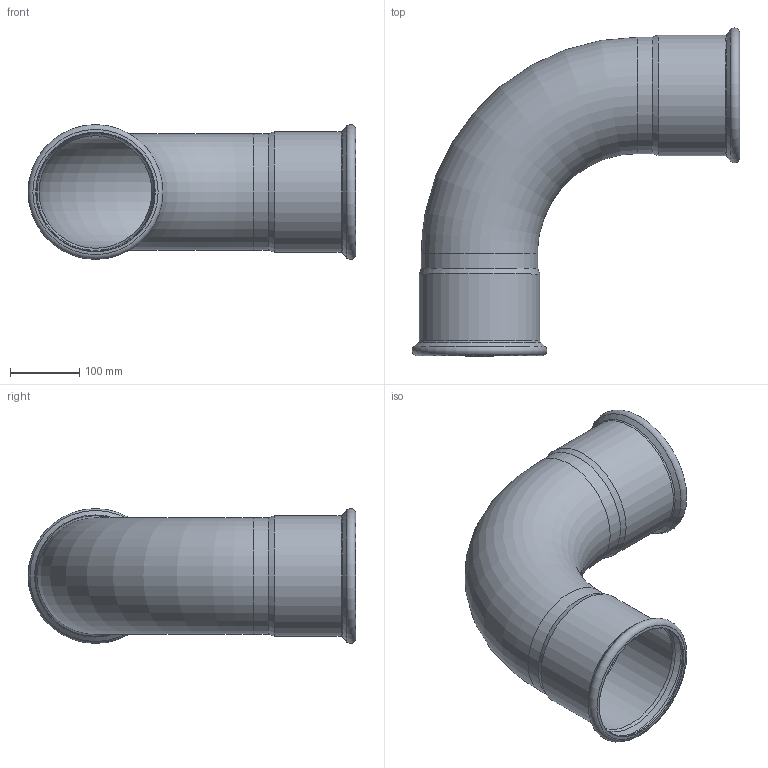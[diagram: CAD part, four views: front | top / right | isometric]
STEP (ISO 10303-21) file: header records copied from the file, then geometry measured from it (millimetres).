
FILE_DESCRIPTION((''),'2;1');
FILE_NAME('G:\Nirosan-Schmiedefeld\Technics\CAD\001 Serie 9.000\169_va\69002A168H(0).stp','2020-10-06T08:00:36',('herberg'),(''),'Autodesk Inventor 2009','Autodesk Inventor 2009','');
FILE_SCHEMA(('AUTOMOTIVE_DESIGN { 1 0 10303 214 1 1 1 1 }'));
Length unit declared in the file: millimetre
Products named in the file (3): 69002A168H(0); 69002A168P(0); 69HM168P(0)
Assembly tree (3 placements, depth 2):
  69002A168H(0)
    69002A168P(0)
    69HM168P(0)  x2
Bounding box: 474.59 x 474.59 x 195.18 mm (x, y, z)
Volume: 935758.9 mm3; surface area: 727802 mm2
Topology: 3 solids, 3 shells, 38 faces, 72 edges, 38 vertices
Faces by surface type: cone 16, cylinder 8, torus 6, plane 4, bspline 4
Full cylindrical faces by diameter (mm): 163.1 x2, 168.3 x2, 169.3 x2, 174.5 x2
Entity records: 638 total; most frequent: CARTESIAN_POINT 193, DIRECTION 92, AXIS2_PLACEMENT_3D 46, ORIENTED_EDGE 42, EDGE_LOOP 42, VERTEX_POINT 21, CIRCLE 21, EDGE_CURVE 21
